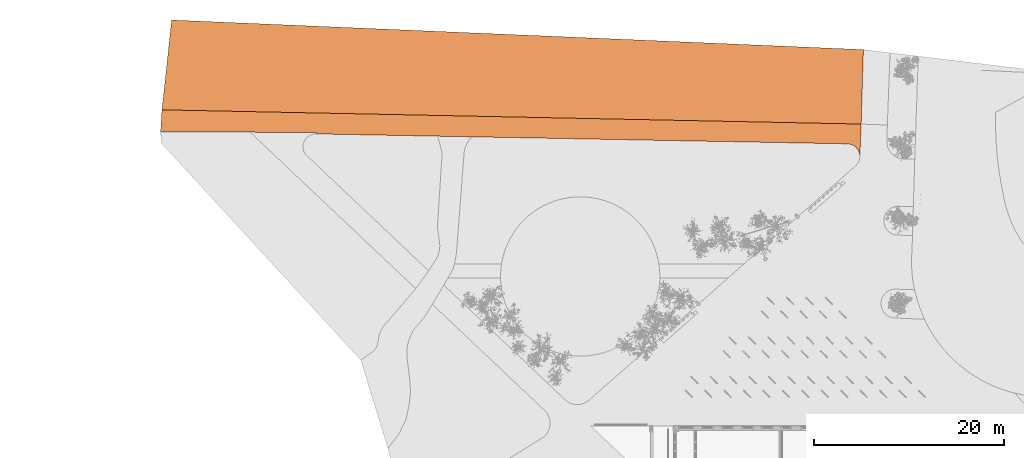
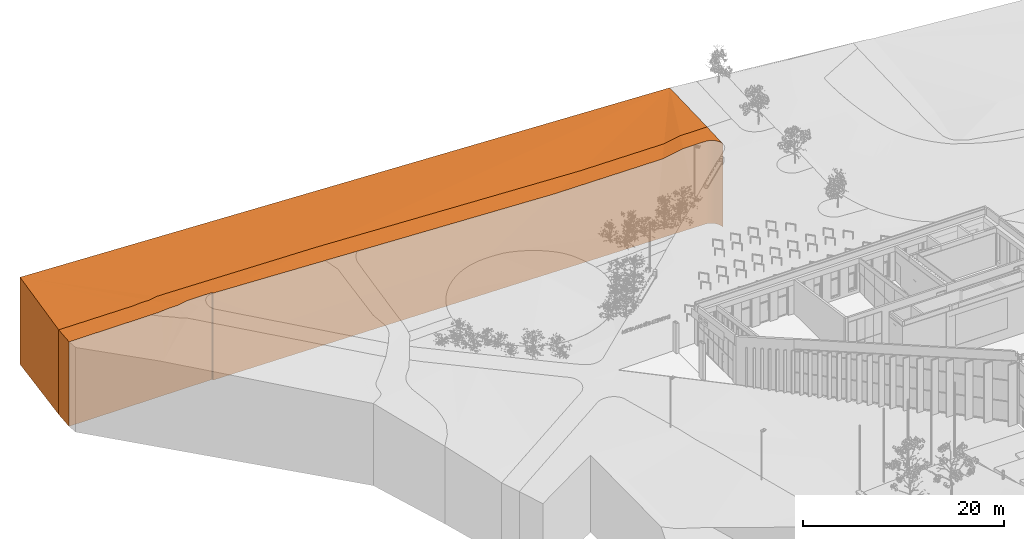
# One storey, part 228 of 246: 2 proxies.
"""IFC2X3 building model written with IfcOpenShell, lengths in millimetres."""

from ifc_helpers import new_model, entity, si_unit, converted_unit, derived_unit, money_unit, direction, frame, origin_with_axes, place, context, subcontext, project, spatial, faceted_brep, material, type_object, element, save


model = new_model("IFC2X3")

# Units and contexts
model_context = context("Model", 3, precision=0.01, world=origin_with_axes(), true_north=direction((0.0, 1.0)))
body_context = subcontext(model_context, "Body", "Model", "MODEL_VIEW")
ifc_project = project(units=[si_unit("LENGTHUNIT", "METRE", prefix="MILLI"), si_unit("AREAUNIT", "SQUARE_METRE"), si_unit("VOLUMEUNIT", "CUBIC_METRE"), converted_unit("PLANEANGLEUNIT", "DEGREE", entity("IfcPlaneAngleMeasure", 0.0174532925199), si_unit("PLANEANGLEUNIT", "RADIAN"), dimensions=[0, 0, 0, 0, 0, 0, 0]), si_unit("SOLIDANGLEUNIT", "STERADIAN"), money_unit("EUR"), converted_unit("TIMEUNIT", "Year", entity("IfcTimeMeasure", 31556926.0), si_unit("TIMEUNIT", "SECOND"), dimensions=[0, 0, 1, 0, 0, 0, 0]), si_unit("MASSUNIT", "GRAM", prefix="KILO"), si_unit("THERMODYNAMICTEMPERATUREUNIT", "DEGREE_CELSIUS"), si_unit("LUMINOUSINTENSITYUNIT", "LUMEN"), si_unit("ENERGYUNIT", "JOULE", prefix="MEGA"), derived_unit("THERMALCONDUCTANCEUNIT", [(si_unit("POWERUNIT", "WATT"), 1), (si_unit("LENGTHUNIT", "METRE"), -1), (si_unit("THERMODYNAMICTEMPERATUREUNIT", "KELVIN"), -1)]), derived_unit("SPECIFICHEATCAPACITYUNIT", [(si_unit("ENERGYUNIT", "JOULE"), 1), (si_unit("MASSUNIT", "GRAM", prefix="KILO"), -1), (si_unit("THERMODYNAMICTEMPERATUREUNIT", "KELVIN"), -1)]), derived_unit("MASSDENSITYUNIT", [(si_unit("MASSUNIT", "GRAM", prefix="KILO"), 1), (si_unit("VOLUMEUNIT", "CUBIC_METRE"), -1)])], contexts=[model_context])

# Site, building, storey
site_placement = place(None, origin_with_axes())
site = spatial("IfcSite", under=ifc_project, at=site_placement, Name="L.Koidula tn 11b", CompositionType="ELEMENT")
building_placement = place(site_placement, origin_with_axes())
building = spatial("IfcBuilding", under=site, at=building_placement, Name="Rakvere Riigigümnaasium", CompositionType="ELEMENT")
storey_placement = place(building_placement, origin_with_axes())
storey = spatial("IfcBuildingStorey", under=building, at=storey_placement, Name="1.korrus 0,00", CompositionType="ELEMENT", Elevation=0.0)

# Proxies
ifc_material_1 = material(Name="Roheala")
building_element_proxy_type_1 = type_object("IfcBuildingElementProxyType", Name="Roheala", PredefinedType="NOTDEFINED")
proxy_1_placement = place(storey_placement, frame((-39832.9444604, 103955.61332, -10000.0), z_axis=(0.0, 0.0, 1.0), x_axis=(1.0, 0.0, 0.0)))
element("IfcBuildingElementProxy", 1, at=proxy_1_placement, inside=storey, type_object=building_element_proxy_type_1, material=ifc_material_1, Name="Roheala", context=body_context, shape_type="Brep", body=[
    faceted_brep([(1019.22941153, 10981.6069878, 10600.0), (74024.3626319, 7859.34084689, 10000.0), (74024.3626297, 7859.34084677, 0.0), (1019.2294094, 10981.6069866, 0.0), (12527.3274215, 1246.91607403, 10600.0), (29354.536149, 904.410927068, 10457.8443796), (73788.0624196, 0.0, 10085.7504477), (73788.0624196, 0.0, 0.0), (0.0, 1501.90037885, 0.0), (2.03242223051e-06, 1501.90038068, 10300.0), (11187.9725197, 1274.17763326, 10600.0), (8435.88774464, 1330.19424395, 10355.5952868), (73103.5494075, 13.93274628, 10062.0617673), (70748.9090741, 61.8596750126, 10043.2128056), (68896.1634073, 99.5709162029, 9679.52146637), (59375.5528653, 293.355765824, 9613.99682012), (59270.0223107, 295.5037607, 9613.85574607), (10266.7675945, 1292.92806498, 10436.3808938), (9349.41403688, 1311.60010502, 10436.7229226)], [[[0, 1, 2, 3]], [[1, 0, 4, 5]], [[1, 6, 7, 2]], [[8, 3, 2, 7]], [[9, 0, 3, 8]], [[10, 4, 0]], [[11, 9, 8, 7, 6, 12, 13, 14, 15, 16, 5, 4, 10, 17, 18]], [[5, 16, 1]], [[6, 1, 12]], [[9, 11, 0]], [[17, 10, 0]], [[13, 12, 1]], [[14, 13, 1]], [[15, 14, 1]], [[16, 15, 1]], [[18, 17, 0]], [[11, 18, 0]]]),
])
ifc_material_2 = material(Name="Kruus")
building_element_proxy_type_2 = type_object("IfcBuildingElementProxyType", Name="Kruus", PredefinedType="NOTDEFINED")
proxy_2_placement = place(storey_placement, frame((-39979.8464002, 100562.995468, -10000.0), z_axis=(0.0, 0.0, 1.0), x_axis=(1.0, 0.0, 0.0)))
element("IfcBuildingElementProxy", 2, at=proxy_2_placement, inside=storey, type_object=building_element_proxy_type_2, material=ifc_material_2, Name="Olemasolevad kõnniteed", context=body_context, shape_type="Brep", body=[
    faceted_brep([(70895.8110138, 3454.4775265, 10043.2128056), (73250.4513473, 3406.55059776, 10062.0617673), (73934.9643594, 3392.61785148, 10085.7504477), (73934.9643594, 3392.61785148, 0.0), (146.901939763, 4894.51823033, 0.0), (146.901941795, 4894.51823216, 10300.0), (8582.7896844, 4722.81209544, 10355.5952868), (9496.31597664, 4704.2179565, 10436.7229226), (10413.6695342, 4685.54591647, 10436.3808938), (11334.8744594, 4666.79548475, 10600.0), (12259.9550573, 4647.96616663, 10600.0), (12674.2293613, 4639.53392551, 10600.0), (29501.4380887, 4297.02877855, 10457.8443796), (59416.9242505, 3688.12161218, 9613.85574607), (59522.4548051, 3685.97361731, 9613.99682012), (69043.065347, 3492.18876769, 9679.52146637), (70011.1645587, 1348.50534413, 10054.8838778), (72519.9961694, 1301.59653725, 10074.9304466), (72601.0812925, 1295.95081634, 10075.6148099), (72716.0550243, 1277.63135429, 10076.6762593), (72829.0283147, 1249.49601396, 10077.8087195), (72939.1647489, 1211.75309957, 10079.003806), (72990.2007172, 1189.19278041, 10079.6023647), (73796.8150892, 0.0, 10121.5239708), (73045.6489152, 1164.68204645, 10081.8005112), (73147.6924421, 1108.63135221, 10085.9765445), (73244.5398351, 1044.01599658, 10090.0763151), (73335.4740699, 971.314369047, 10094.0694698), (73419.8219014, 891.064727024, 10097.9264447), (73496.9588476, 803.861210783, 10101.618684), (73566.3138136, 710.349444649, 10105.1188519), (73627.3733194, 611.221757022, 10108.4010341), (73679.685302, 507.21205462, 10111.4409306), (73722.8624616, 399.090388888, 10114.2160352), (73756.5851297, 287.657254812, 10116.7058017), (73780.6036355, 173.73766433, 10118.891797), (73794.7401542, 58.1750382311, 10120.7578366), (73796.8150892, 0.0, 0.0), (73794.7401542, 58.1750382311, 0.0), (73780.6036355, 173.73766433, 0.0), (73756.5851297, 287.657254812, 0.0), (73722.8624616, 399.090388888, 0.0), (73679.685302, 507.21205462, 0.0), (73627.3733194, 611.221757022, 0.0), (73566.3138136, 710.349444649, 0.0), (73496.9588476, 803.861210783, 0.0), (73419.8219014, 891.064727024, 0.0), (73335.4740699, 971.314369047, 0.0), (73244.5398351, 1044.01599658, 0.0), (73147.6924421, 1108.63135221, 0.0), (73045.6489152, 1164.68204645, 0.0), (72939.1647489, 1211.75309957, 0.0), (72829.0283147, 1249.49601396, 0.0), (72716.0550243, 1277.63135429, 0.0), (72601.0812925, 1295.95081634, 0.0), (72519.9961694, 1301.59653725, 0.0), (16438.6866082, 2350.17520957, 0.0), (16444.6136568, 2500.05806446, 0.0), (0.0, 2572.92721909, 0.0), (1.94613392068e-06, 2572.92722037, 10300.0), (10269.7173186, 2527.42018348, 10300.0), (10269.8459089, 2527.41961367, 10300.0009107), (10275.6616157, 2527.39384319, 10300.5261892), (11369.8718385, 2529.32041288, 10400.0), (12469.8701334, 2531.25717361, 10400.0), (13569.8684284, 2533.19393433, 10600.0), (14669.8667233, 2535.13069505, 10600.0), (13602.1449147, 2512.65357437, 10600.0), (14736.4289234, 2507.62735007, 10600.0), (15196.9260624, 2505.58680123, 10600.0), (16444.6136568, 2500.05806446, 10589.2562797), (16438.6866082, 2350.17520957, 10590.8413661), (16937.3822207, 2340.8508627, 10586.6199495), (55386.5595975, 1621.9484747, 9508.3747745), (55521.3333013, 1619.42854725, 9508.56534493), (67655.4775409, 1392.55073438, 9592.80640599), (13579.7584237, 2512.75277309, 10598.4792863), (13577.4678803, 2512.76292292, 10598.5590283), (12485.5653299, 2517.60134706, 10400.9644444), (12468.4524573, 2517.6771774, 10400.5324276), (12464.9122254, 2517.69286483, 10400.0), (11368.935211, 2522.54934368, 10400.0), (11357.9491652, 2522.59802491, 10399.0077021)], [[[0, 1, 2, 3, 4, 5, 6, 7, 8, 9, 10, 11, 12, 13, 14, 15]], [[1, 0, 16, 17, 18, 19, 20, 21, 22]], [[23, 2, 1, 22, 24, 25, 26, 27, 28, 29, 30, 31, 32, 33, 34, 35, 36]], [[2, 23, 37, 3]], [[3, 37, 38, 39, 40, 41, 42, 43, 44, 45, 46, 47, 48, 49, 50, 51, 52, 53, 54, 55, 56, 57, 58, 4]], [[59, 5, 4, 58]], [[60, 61, 6, 5]], [[61, 62, 63, 7, 6]], [[8, 7, 63, 64]], [[9, 8, 64, 65]], [[66, 10, 9, 65, 67, 68]], [[10, 66, 68, 69, 11]], [[12, 11, 69, 70, 71, 72]], [[13, 12, 72, 73]], [[14, 13, 73, 74]], [[15, 14, 74, 75]], [[0, 15, 75, 16]], [[72, 71, 56, 55, 17, 16, 75, 74, 73]], [[18, 17, 55, 54]], [[19, 18, 54, 53]], [[20, 19, 53, 52]], [[21, 20, 52, 51]], [[22, 21, 51, 50, 24]], [[25, 24, 50, 49]], [[26, 25, 49, 48]], [[27, 26, 48, 47]], [[28, 27, 47, 46]], [[29, 28, 46, 45]], [[30, 29, 45, 44]], [[31, 30, 44, 43]], [[32, 31, 43, 42]], [[33, 32, 42, 41]], [[34, 33, 41, 40]], [[35, 34, 40, 39]], [[36, 35, 39, 38]], [[23, 36, 38, 37]], [[71, 70, 57, 56]], [[60, 59, 58, 57, 70, 69, 68, 67, 76, 77, 78, 79, 80, 81, 82, 62, 61]], [[59, 60, 5]], [[62, 82, 63]], [[81, 80, 64, 63]], [[78, 77, 65, 64]], [[76, 67, 65]], [[77, 76, 65]], [[79, 78, 64]], [[80, 79, 64]], [[82, 81, 63]]]),
])

save(model, "model.ifc")
